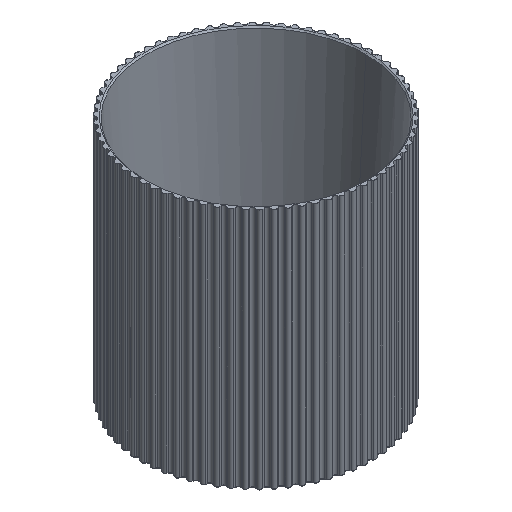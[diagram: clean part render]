
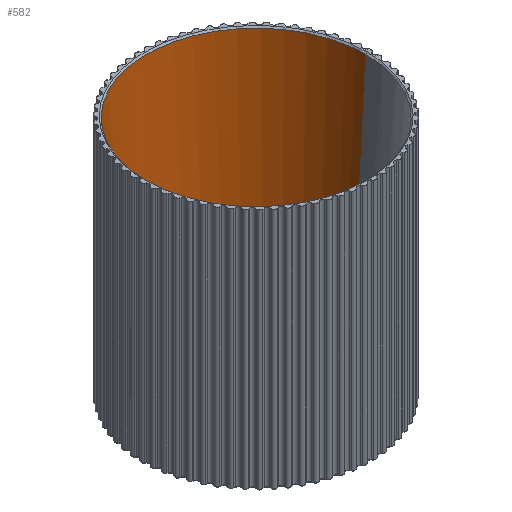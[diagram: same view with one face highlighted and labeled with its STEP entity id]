
A CAD part, isometric view. The second image highlights one B-rep face of the part: STEP entity #582.
In plain terms, the highlighted free-form (B-spline) face has degree [1, 2] with [2, 5] control points.
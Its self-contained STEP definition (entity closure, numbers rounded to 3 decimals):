
#582=ADVANCED_FACE('',(#1152),#8523,.T.);
#1152=FACE_OUTER_BOUND('',#1723,.T.);
#1723=EDGE_LOOP('',(#4547,#4548,#4549,#4550));
#4547=ORIENTED_EDGE('',*,*,#5399,.F.);
#4548=ORIENTED_EDGE('',*,*,#5400,.T.);
#4549=ORIENTED_EDGE('',*,*,#5401,.T.);
#4550=ORIENTED_EDGE('',*,*,#5969,.F.);
#5399=EDGE_CURVE('',#7950,#8235,#6394,.T.);
#5400=EDGE_CURVE('',#7950,#7952,#6395,.T.);
#5401=EDGE_CURVE('',#7952,#8237,#6396,.T.);
#5969=EDGE_CURVE('',#8235,#8237,#6543,.T.);
#6394=(
BOUNDED_CURVE()
B_SPLINE_CURVE(2,(#15016,#15017,#15018,#15019,#15020),.UNSPECIFIED.,.F.,
 .F.)
B_SPLINE_CURVE_WITH_KNOTS((3,2,3),(-257.434,-193.076,
-128.717),.UNSPECIFIED.)
CURVE()
GEOMETRIC_REPRESENTATION_ITEM()
RATIONAL_B_SPLINE_CURVE((1.,0.707,1.,0.707,1.))
REPRESENTATION_ITEM('')
);
#6395=(
BOUNDED_CURVE()
B_SPLINE_CURVE(1,(#15021,#15022),.UNSPECIFIED.,.F.,.F.)
B_SPLINE_CURVE_WITH_KNOTS((2,2),(-312.186,-250.046),
 .UNSPECIFIED.)
CURVE()
GEOMETRIC_REPRESENTATION_ITEM()
RATIONAL_B_SPLINE_CURVE((1.,1.))
REPRESENTATION_ITEM('')
);
#6396=(
BOUNDED_CURVE()
B_SPLINE_CURVE(2,(#15023,#15024,#15025,#15026,#15027),.UNSPECIFIED.,.F.,
 .F.)
B_SPLINE_CURVE_WITH_KNOTS((3,2,3),(-171.538,-128.653,
-85.769),.UNSPECIFIED.)
CURVE()
GEOMETRIC_REPRESENTATION_ITEM()
RATIONAL_B_SPLINE_CURVE((1.,0.707,1.,0.707,1.))
REPRESENTATION_ITEM('')
);
#6543=(
BOUNDED_CURVE()
B_SPLINE_CURVE(1,(#16733,#16734),.UNSPECIFIED.,.F.,.F.)
B_SPLINE_CURVE_WITH_KNOTS((2,2),(275.723,337.864),
 .UNSPECIFIED.)
CURVE()
GEOMETRIC_REPRESENTATION_ITEM()
RATIONAL_B_SPLINE_CURVE((1.,1.))
REPRESENTATION_ITEM('')
);
#7950=VERTEX_POINT('',#12205);
#7952=VERTEX_POINT('',#12207);
#8235=VERTEX_POINT('',#12490);
#8237=VERTEX_POINT('',#12492);
#8523=(
BOUNDED_SURFACE()
B_SPLINE_SURFACE(1,2,((#11619,#11620,#11621,#11622,#11623),(#11624,#11625,
#11626,#11627,#11628)),.UNSPECIFIED.,.F.,.F.,.F.)
B_SPLINE_SURFACE_WITH_KNOTS((2,2),(3,2,3),(275.723,337.864),
(0.,63.614,127.228),.UNSPECIFIED.)
GEOMETRIC_REPRESENTATION_ITEM()
RATIONAL_B_SPLINE_SURFACE(((1.,0.707,1.,0.707,1.),
(1.,0.707,1.,0.707,1.)))
REPRESENTATION_ITEM('')
SURFACE()
);
#11619=CARTESIAN_POINT('',(6.666,24.187,88.282));
#11620=CARTESIAN_POINT('',(6.666,64.66,88.282));
#11621=CARTESIAN_POINT('',(47.139,64.66,88.282));
#11622=CARTESIAN_POINT('',(87.613,64.66,88.282));
#11623=CARTESIAN_POINT('',(87.613,24.187,88.282));
#11624=CARTESIAN_POINT('',(9.851,24.187,30.95));
#11625=CARTESIAN_POINT('',(9.851,61.475,30.95));
#11626=CARTESIAN_POINT('',(47.139,61.475,30.95));
#11627=CARTESIAN_POINT('',(84.428,61.475,30.95));
#11628=CARTESIAN_POINT('',(84.428,24.187,30.95));
#12205=CARTESIAN_POINT('',(6.666,24.187,88.282));
#12207=CARTESIAN_POINT('',(9.851,24.187,30.95));
#12490=CARTESIAN_POINT('',(87.613,24.187,88.282));
#12492=CARTESIAN_POINT('',(84.428,24.187,30.95));
#15016=CARTESIAN_POINT('',(6.666,24.187,88.282));
#15017=CARTESIAN_POINT('',(6.666,64.66,88.282));
#15018=CARTESIAN_POINT('',(47.139,64.66,88.282));
#15019=CARTESIAN_POINT('',(87.613,64.66,88.282));
#15020=CARTESIAN_POINT('',(87.613,24.187,88.282));
#15021=CARTESIAN_POINT('',(6.666,24.187,88.282));
#15022=CARTESIAN_POINT('',(9.851,24.187,30.95));
#15023=CARTESIAN_POINT('',(9.851,24.187,30.95));
#15024=CARTESIAN_POINT('',(9.851,61.475,30.95));
#15025=CARTESIAN_POINT('',(47.139,61.475,30.95));
#15026=CARTESIAN_POINT('',(84.428,61.475,30.95));
#15027=CARTESIAN_POINT('',(84.428,24.187,30.95));
#16733=CARTESIAN_POINT('',(87.613,24.187,88.282));
#16734=CARTESIAN_POINT('',(84.428,24.187,30.95));
